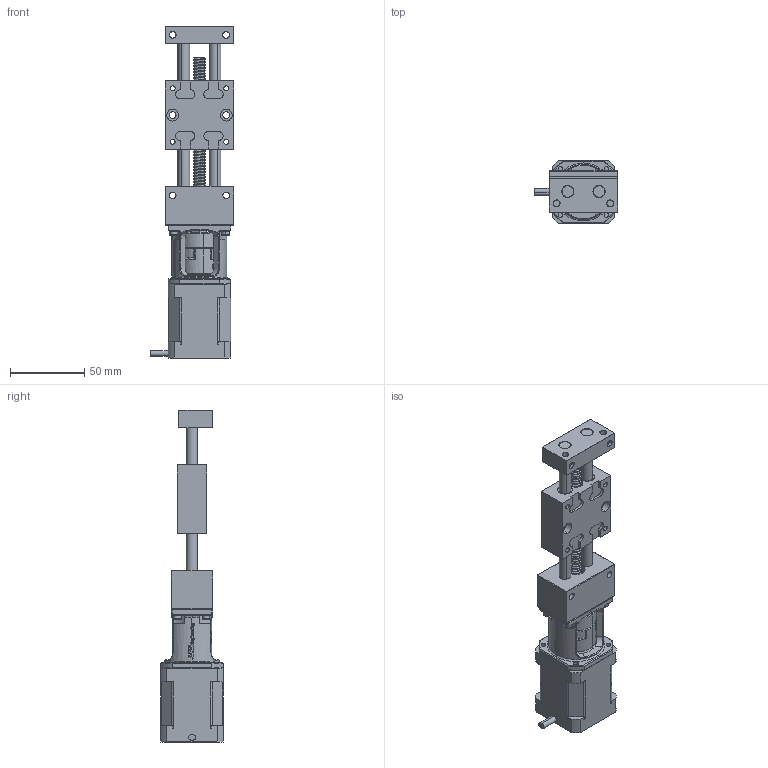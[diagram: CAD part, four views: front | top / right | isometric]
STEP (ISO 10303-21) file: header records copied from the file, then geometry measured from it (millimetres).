
FILE_DESCRIPTION (( 'STEP AP203' ), '1' );
FILE_NAME ('MPT5008-AK-M.STEP', '2015-12-11T09:59:47', ( '' ), ( '' ), 'SwSTEP 2.0', 'SolidWorks 2014', '' );
FILE_SCHEMA (( 'CONFIG_CONTROL_DESIGN' ));
Products named in the file (4): MPT5008-000-01-Festteil-AK; MPT08-000-02-Schlitten-komplett; Schrittmotor-ohne-Steuerung-NSM17_n_Standard; MPT5008-AK-M
Assembly tree (3 placements, depth 2):
  MPT5008-AK-M
    MPT5008-000-01-Festteil-AK
    MPT08-000-02-Schlitten-komplett
    Schrittmotor-ohne-Steuerung-NSM17_n_Standard
Bounding box: 56 x 42 x 223.5 mm (x, y, z)
Volume: 197520.9 mm3; surface area: 63482.7 mm2
Topology: 5 solids, 33 shells, 1697 faces, 4506 edges, 2922 vertices
Faces by surface type: cylinder 650, plane 522, bspline 335, cone 163, torus 27
Entity records: 100873 total; most frequent: CARTESIAN_POINT 62030, ORIENTED_EDGE 8944, DIRECTION 6624, EDGE_CURVE 4472, VERTEX_POINT 2922, AXIS2_PLACEMENT_3D 2486, EDGE_LOOP 1886, FACE_OUTER_BOUND 1697
